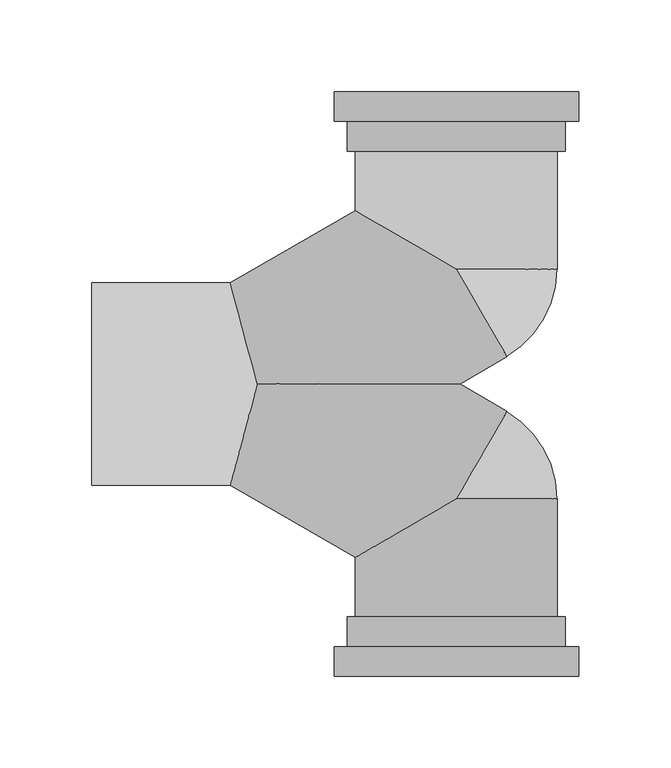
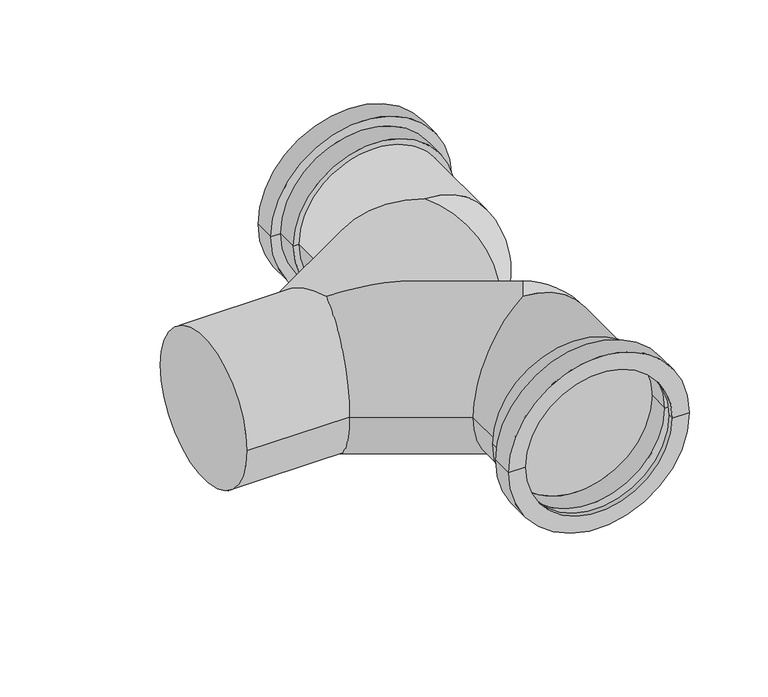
"""IFC4 building model written with IfcOpenShell, lengths in millimetres: pipe fitting geometry, Wavin_PipeFitting_PeBranchYWc : Var. PE DN."""

from ifc_helpers import new_model, si_unit, point, frame, origin, place, context, project, spatial, polyline, circle_curve, ellipse_curve, trimmed, source, transform, mapped, element, save
from ifc_brep_helpers import plane_surface, cylinder_surface, revolved_surface, advanced_brep


def pipe_fitting_9b13b171(model_context):
    return source(origin(), model_context, "Body", "AdvancedBrep", [
        advanced_brep(
        [(135.7531755, 14.8686028, 0.0), (108.2531755, 62.5, 55.0), (53.2531755, 94.2542648, 0.0), (-14.7372056, 55.0, 0.0), (0.0, 0.0, 55.0), (110.0, 0.0, 0.0), (108.2531755, 62.5, -55.0), (0.0, 0.0, -55.0), (163.2531755, 62.5, 0.0), (163.7531755, 130.5, 0.0), (52.7531755, 130.5, 0.0), (163.2531755, 126.7, 0.0), (53.2531755, 126.7, 0.0), (-90.0, -55.0, 0.0), (-90.0, 55.0, 0.0), (-14.7372056, -55.0, 0.0), (135.7531755, -14.8686028, 0.0), (53.2531755, -94.2542648, 0.0), (108.2531755, -62.5, 55.0), (108.2531755, -62.5, -55.0), (52.7531755, -130.5, 0.0), (163.7531755, -130.5, 0.0), (53.2531755, -126.7, 0.0), (163.2531755, -126.7, 0.0), (163.2531755, -62.5, 0.0), (167.5531755, -126.7, 0.0), (48.9531755, -126.7, 0.0), (167.5531755, -142.8833679, 0.0), (48.9531755, -142.8833679, 0.0), (174.7531755, -142.8833679, 0.0), (41.7531755, -142.8833679, 0.0), (174.7531755, -158.8833679, 0.0), (41.7531755, -158.8833679, 0.0), (162.1531755, -158.8833679, 0.0), (54.3531755, -158.8833679, 0.0), (162.1531755, -155.0833679, 0.0), (54.3531755, -155.0833679, 0.0), (170.9531755, -155.0833679, 0.0), (45.5531755, -155.0833679, 0.0), (170.9531755, -146.6833679, 0.0), (45.5531755, -146.6833679, 0.0), (163.7531755, -146.6833679, 0.0), (52.7531755, -146.6833679, 0.0), (48.9531755, 126.7, 0.0), (167.5531755, 126.7, 0.0), (48.9531755, 142.8833679, 0.0), (167.5531755, 142.8833679, 0.0), (41.7531755, 142.8833679, 0.0), (174.7531755, 142.8833679, 0.0), (41.7531755, 158.8833679, 0.0), (174.7531755, 158.8833679, 0.0), (54.3531755, 158.8833679, 0.0), (162.1531755, 158.8833679, 0.0), (54.3531755, 155.0833679, 0.0), (162.1531755, 155.0833679, 0.0), (45.5531755, 155.0833679, 0.0), (170.9531755, 155.0833679, 0.0), (45.5531755, 146.6833679, 0.0), (170.9531755, 146.6833679, 0.0), (52.7531755, 146.6833679, 0.0), (163.7531755, 146.6833679, 0.0)],
        [
            (0, 1, circle_curve(frame((108.2531755, 62.5, 0.0), z_axis=(-0.866025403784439, -0.49999999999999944, 0.0), x_axis=(-0.49999999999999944, 0.866025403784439, 0.0)), 55.0)),
            (1, 2, ellipse_curve(frame((108.2531755, 62.5, 0.0), z_axis=(-0.5000000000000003, -0.8660254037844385, 0.0), x_axis=(-0.8660254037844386, 0.5000000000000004, 0.0)), 63.5085296, 55.0)),
            (2, 3),
            (3, 4, ellipse_curve(frame((0.0, 0.0, 0.0), z_axis=(0.9659258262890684, 0.25881904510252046, 0.0), x_axis=(0.25881904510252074, -0.9659258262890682, 0.0)), 56.9401899, 55.0)),
            (4, 5, ellipse_curve(frame((0.0, 0.0, 0.0), z_axis=(0.0, 1.0, 0.0), x_axis=(-1.0, 0.0, 0.0)), 110.0, 55.0)),
            (5, 0),
            (6, 0, circle_curve(frame((108.2531755, 62.5, 0.0), z_axis=(-0.866025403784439, -0.49999999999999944, 0.0), x_axis=(-0.49999999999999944, 0.866025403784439, 0.0)), 55.0)),
            (5, 7, ellipse_curve(frame((0.0, 0.0, 0.0), z_axis=(0.0, 1.0, 0.0), x_axis=(-1.0, 0.0, 0.0)), 110.0, 55.0)),
            (7, 3, ellipse_curve(frame((0.0, 0.0, 0.0), z_axis=(0.9659258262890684, 0.25881904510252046, 0.0), x_axis=(0.25881904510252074, -0.9659258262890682, 0.0)), 56.9401899, 55.0)),
            (2, 6, ellipse_curve(frame((108.2531755, 62.5, 0.0), z_axis=(-0.5000000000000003, -0.8660254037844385, 0.0), x_axis=(-0.8660254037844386, 0.5000000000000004, 0.0)), 63.5085296, 55.0)),
            (6, 8, circle_curve(frame((108.2531755, 62.5, 0.0), z_axis=(0.0, -1.0, 0.0), x_axis=(1.0, 0.0, 0.0)), 55.0)),
            (8, 1, circle_curve(frame((108.2531755, 62.5, 0.0), z_axis=(0.0, -1.0, 0.0), x_axis=(1.0, 0.0, 0.0)), 55.0)),
            (9, 10, circle_curve(frame((108.2531755, 130.5, 0.0), z_axis=(0.0, 1.0, 0.0), x_axis=(1.0, 0.0, 0.0)), 55.5)),
            (10, 9, circle_curve(frame((108.2531755, 130.5, 0.0), z_axis=(0.0, 1.0, 0.0), x_axis=(1.0, 0.0, 0.0)), 55.5)),
            (8, 11),
            (11, 12, circle_curve(frame((108.2531755, 126.7, 0.0), z_axis=(0.0, -1.0, 0.0), x_axis=(-1.0, 0.0, 0.0)), 55.0)),
            (12, 2),
            (12, 11, circle_curve(frame((108.2531755, 126.7, 0.0), z_axis=(0.0, -1.0, 0.0), x_axis=(-1.0, 0.0, 0.0)), 55.0)),
            (13, 14, circle_curve(frame((-90.0, 0.0, 0.0), z_axis=(-1.0, 0.0, 0.0), x_axis=(0.0, 1.0, 0.0)), 55.0)),
            (14, 13, circle_curve(frame((-90.0, 0.0, 0.0), z_axis=(-1.0, 0.0, 0.0), x_axis=(0.0, 1.0, 0.0)), 55.0)),
            (14, 3),
            (7, 15, ellipse_curve(frame((0.0, 0.0, 0.0), z_axis=(-0.9659258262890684, 0.25881904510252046, 0.0), x_axis=(0.25881904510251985, 0.9659258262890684, 0.0)), 56.9401899, 55.0)),
            (15, 13),
            (15, 4, ellipse_curve(frame((0.0, 0.0, 0.0), z_axis=(-0.9659258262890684, 0.25881904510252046, 0.0), x_axis=(0.25881904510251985, 0.9659258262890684, 0.0)), 56.9401899, 55.0)),
            (16, 5),
            (15, 17),
            (17, 18, ellipse_curve(frame((108.2531755, -62.5, 0.0), z_axis=(-0.5000000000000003, 0.8660254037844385, 0.0), x_axis=(-0.8660254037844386, -0.5000000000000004, 0.0)), 63.5085296, 55.0)),
            (18, 16, circle_curve(frame((108.2531755, -62.5, 0.0), z_axis=(-0.866025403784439, 0.49999999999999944, 0.0), x_axis=(0.49999999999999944, 0.866025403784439, 0.0)), 55.0)),
            (16, 19, circle_curve(frame((108.2531755, -62.5, 0.0), z_axis=(-0.866025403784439, 0.49999999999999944, 0.0), x_axis=(0.49999999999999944, 0.866025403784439, 0.0)), 55.0)),
            (19, 17, ellipse_curve(frame((108.2531755, -62.5, 0.0), z_axis=(-0.5000000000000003, 0.8660254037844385, 0.0), x_axis=(-0.8660254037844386, -0.5000000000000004, 0.0)), 63.5085296, 55.0)),
            (20, 21, circle_curve(frame((108.2531755, -130.5, 0.0), z_axis=(0.0, -1.0, 0.0), x_axis=(1.0, 0.0, 0.0)), 55.5)),
            (21, 20, circle_curve(frame((108.2531755, -130.5, 0.0), z_axis=(0.0, -1.0, 0.0), x_axis=(1.0, 0.0, 0.0)), 55.5)),
            (17, 22),
            (22, 23, circle_curve(frame((108.2531755, -126.7, 0.0), z_axis=(0.0, 1.0, 0.0), x_axis=(1.0, 0.0, 0.0)), 55.0)),
            (23, 24),
            (24, 18, circle_curve(frame((108.2531755, -62.5, 0.0), z_axis=(0.0, -1.0, 0.0), x_axis=(1.0, 0.0, 0.0)), 55.0)),
            (19, 24, circle_curve(frame((108.2531755, -62.5, 0.0), z_axis=(0.0, -1.0, 0.0), x_axis=(1.0, 0.0, 0.0)), 55.0)),
            (23, 22, circle_curve(frame((108.2531755, -126.7, 0.0), z_axis=(0.0, 1.0, 0.0), x_axis=(1.0, 0.0, 0.0)), 55.0)),
            (25, 26, circle_curve(frame((108.2531755, -126.7, 0.0), z_axis=(0.0, 1.0, 0.0), x_axis=(1.0, 0.0, 0.0)), 59.3)),
            (26, 22),
            (23, 25),
            (26, 25, circle_curve(frame((108.2531755, -126.7, 0.0), z_axis=(0.0, 1.0, 0.0), x_axis=(1.0, 0.0, 0.0)), 59.3)),
            (25, 27),
            (27, 28, circle_curve(frame((108.2531755, -142.8833679, 0.0), z_axis=(0.0, 1.0, 0.0), x_axis=(1.0, 0.0, 0.0)), 59.3)),
            (28, 26),
            (28, 27, circle_curve(frame((108.2531755, -142.8833679, 0.0), z_axis=(0.0, 1.0, 0.0), x_axis=(1.0, 0.0, 0.0)), 59.3)),
            (27, 29),
            (29, 30, circle_curve(frame((108.2531755, -142.8833679, 0.0), z_axis=(0.0, 1.0, 0.0), x_axis=(1.0, 0.0, 0.0)), 66.5)),
            (30, 28),
            (30, 29, circle_curve(frame((108.2531755, -142.8833679, 0.0), z_axis=(0.0, 1.0, 0.0), x_axis=(1.0, 0.0, 0.0)), 66.5)),
            (29, 31),
            (31, 32, circle_curve(frame((108.2531755, -158.8833679, 0.0), z_axis=(0.0, 1.0, 0.0), x_axis=(1.0, 0.0, 0.0)), 66.5)),
            (32, 30),
            (32, 31, circle_curve(frame((108.2531755, -158.8833679, 0.0), z_axis=(0.0, 1.0, 0.0), x_axis=(1.0, 0.0, 0.0)), 66.5)),
            (31, 33),
            (33, 34, circle_curve(frame((108.2531755, -158.8833679, 0.0), z_axis=(0.0, 1.0, 0.0), x_axis=(1.0, 0.0, 0.0)), 53.9)),
            (34, 32),
            (34, 33, circle_curve(frame((108.2531755, -158.8833679, 0.0), z_axis=(0.0, 1.0, 0.0), x_axis=(1.0, 0.0, 0.0)), 53.9)),
            (33, 35),
            (35, 36, circle_curve(frame((108.2531755, -155.0833679, 0.0), z_axis=(0.0, 1.0, 0.0), x_axis=(1.0, 0.0, 0.0)), 53.9)),
            (36, 34),
            (36, 35, circle_curve(frame((108.2531755, -155.0833679, 0.0), z_axis=(0.0, 1.0, 0.0), x_axis=(1.0, 0.0, 0.0)), 53.9)),
            (35, 37),
            (37, 38, circle_curve(frame((108.2531755, -155.0833679, 0.0), z_axis=(0.0, 1.0, 0.0), x_axis=(1.0, 0.0, 0.0)), 62.7)),
            (38, 36),
            (38, 37, circle_curve(frame((108.2531755, -155.0833679, 0.0), z_axis=(0.0, 1.0, 0.0), x_axis=(1.0, 0.0, 0.0)), 62.7)),
            (37, 39),
            (39, 40, circle_curve(frame((108.2531755, -146.6833679, 0.0), z_axis=(0.0, 1.0, 0.0), x_axis=(1.0, 0.0, 0.0)), 62.7)),
            (40, 38),
            (40, 39, circle_curve(frame((108.2531755, -146.6833679, 0.0), z_axis=(0.0, 1.0, 0.0), x_axis=(1.0, 0.0, 0.0)), 62.7)),
            (39, 41),
            (41, 42, circle_curve(frame((108.2531755, -146.6833679, 0.0), z_axis=(0.0, 1.0, 0.0), x_axis=(1.0, 0.0, 0.0)), 55.5)),
            (42, 40),
            (42, 41, circle_curve(frame((108.2531755, -146.6833679, 0.0), z_axis=(0.0, 1.0, 0.0), x_axis=(1.0, 0.0, 0.0)), 55.5)),
            (20, 42),
            (41, 21),
            (43, 44, circle_curve(frame((108.2531755, 126.7, 0.0), z_axis=(0.0, -1.0, 0.0), x_axis=(1.0, 0.0, 0.0)), 59.3)),
            (44, 11),
            (12, 43),
            (44, 43, circle_curve(frame((108.2531755, 126.7, 0.0), z_axis=(0.0, -1.0, 0.0), x_axis=(1.0, 0.0, 0.0)), 59.3)),
            (43, 45),
            (45, 46, circle_curve(frame((108.2531755, 142.8833679, 0.0), z_axis=(0.0, -1.0, 0.0), x_axis=(1.0, 0.0, 0.0)), 59.3)),
            (46, 44),
            (46, 45, circle_curve(frame((108.2531755, 142.8833679, 0.0), z_axis=(0.0, -1.0, 0.0), x_axis=(1.0, 0.0, 0.0)), 59.3)),
            (45, 47),
            (47, 48, circle_curve(frame((108.2531755, 142.8833679, 0.0), z_axis=(0.0, -1.0, 0.0), x_axis=(1.0, 0.0, 0.0)), 66.5)),
            (48, 46),
            (48, 47, circle_curve(frame((108.2531755, 142.8833679, 0.0), z_axis=(0.0, -1.0, 0.0), x_axis=(1.0, 0.0, 0.0)), 66.5)),
            (47, 49),
            (49, 50, circle_curve(frame((108.2531755, 158.8833679, 0.0), z_axis=(0.0, -1.0, 0.0), x_axis=(1.0, 0.0, 0.0)), 66.5)),
            (50, 48),
            (50, 49, circle_curve(frame((108.2531755, 158.8833679, 0.0), z_axis=(0.0, -1.0, 0.0), x_axis=(1.0, 0.0, 0.0)), 66.5)),
            (49, 51),
            (51, 52, circle_curve(frame((108.2531755, 158.8833679, 0.0), z_axis=(0.0, -1.0, 0.0), x_axis=(1.0, 0.0, 0.0)), 53.9)),
            (52, 50),
            (52, 51, circle_curve(frame((108.2531755, 158.8833679, 0.0), z_axis=(0.0, -1.0, 0.0), x_axis=(1.0, 0.0, 0.0)), 53.9)),
            (51, 53),
            (53, 54, circle_curve(frame((108.2531755, 155.0833679, 0.0), z_axis=(0.0, -1.0, 0.0), x_axis=(1.0, 0.0, 0.0)), 53.9)),
            (54, 52),
            (54, 53, circle_curve(frame((108.2531755, 155.0833679, 0.0), z_axis=(0.0, -1.0, 0.0), x_axis=(1.0, 0.0, 0.0)), 53.9)),
            (53, 55),
            (55, 56, circle_curve(frame((108.2531755, 155.0833679, 0.0), z_axis=(0.0, -1.0, 0.0), x_axis=(1.0, 0.0, 0.0)), 62.7)),
            (56, 54),
            (56, 55, circle_curve(frame((108.2531755, 155.0833679, 0.0), z_axis=(0.0, -1.0, 0.0), x_axis=(1.0, 0.0, 0.0)), 62.7)),
            (55, 57),
            (57, 58, circle_curve(frame((108.2531755, 146.6833679, 0.0), z_axis=(0.0, -1.0, 0.0), x_axis=(1.0, 0.0, 0.0)), 62.7)),
            (58, 56),
            (58, 57, circle_curve(frame((108.2531755, 146.6833679, 0.0), z_axis=(0.0, -1.0, 0.0), x_axis=(1.0, 0.0, 0.0)), 62.7)),
            (57, 59),
            (59, 60, circle_curve(frame((108.2531755, 146.6833679, 0.0), z_axis=(0.0, -1.0, 0.0), x_axis=(1.0, 0.0, 0.0)), 55.5)),
            (60, 58),
            (60, 59, circle_curve(frame((108.2531755, 146.6833679, 0.0), z_axis=(0.0, -1.0, 0.0), x_axis=(1.0, 0.0, 0.0)), 55.5)),
            (9, 60),
            (59, 10),
        ],
        [
            cylinder_surface(frame((0.0, 0.0, 0.0), z_axis=(-0.866025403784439, -0.49999999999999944, 0.0), x_axis=(-0.49999999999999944, 0.866025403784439, 0.0)), 55.0),
            revolved_surface(trimmed(ellipse_curve(frame((108.2531755, 62.5, 0.0), z_axis=(0.0, 1.0, 0.0), x_axis=(1.0, 0.0, 0.0)), 55.0, 55.0), [point((108.2531755, 62.5, 55.0))], [point((108.2531755, 62.5, -55.0))], True, "CARTESIAN"), (108.2531755, 62.5, 55.0), (0.0, 0.0, -1.0)),
            plane_surface(frame((108.2531755, 130.5, 0.0), z_axis=(0.0, 1.0, 0.0), x_axis=(0.0, 0.0, 1.0))),
            cylinder_surface(frame((108.2531755, 62.5, 0.0), z_axis=(0.0, -1.0, 0.0), x_axis=(-1.0, 0.0, 0.0)), 55.0),
            plane_surface(frame((-90.0, 55.0, 0.0), z_axis=(-1.0, 0.0, 0.0), x_axis=(0.0, 0.0, -1.0))),
            cylinder_surface(frame((-90.0, 0.0, 0.0), z_axis=(1.0, 0.0, 0.0), x_axis=(0.0, 1.0, 0.0)), 55.0),
            cylinder_surface(frame((0.0, 0.0, 0.0), z_axis=(-0.866025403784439, 0.49999999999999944, 0.0), x_axis=(0.49999999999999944, 0.866025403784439, 0.0)), 55.0),
            plane_surface(frame((108.2531755, -130.5, 0.0), z_axis=(0.0, -1.0, 0.0), x_axis=(0.0, 0.0, 1.0))),
            cylinder_surface(frame((108.2531755, -62.5, 0.0), z_axis=(0.0, 1.0, 0.0), x_axis=(1.0, 0.0, 0.0)), 55.0),
            revolved_surface(trimmed(ellipse_curve(frame((108.2531755, -62.5, 0.0), z_axis=(0.0, -1.0, 0.0), x_axis=(-1.0, 0.0, 0.0)), 55.0, 55.0), [point((108.2531755, -62.5, -55.0))], [point((108.2531755, -62.5, 55.0))], True, "CARTESIAN"), (108.2531755, -62.5, 55.0), (0.0, 0.0, 1.0)),
            plane_surface(frame((108.2531755, -126.7, 0.0), z_axis=(0.0, 1.0, 0.0), x_axis=(1.0, 0.0, 0.0))),
            cylinder_surface(frame((108.2531755, -76.3166321, 0.0), z_axis=(0.0, 1.0, 0.0), x_axis=(1.0, 0.0, 0.0)), 59.3),
            plane_surface(frame((108.2531755, -142.8833679, 0.0), z_axis=(0.0, 1.0, 0.0), x_axis=(1.0, 0.0, 0.0))),
            cylinder_surface(frame((108.2531755, -76.3166321, 0.0), z_axis=(0.0, 1.0, 0.0), x_axis=(1.0, 0.0, 0.0)), 66.5),
            plane_surface(frame((108.2531755, -158.8833679, 0.0), z_axis=(0.0, -1.0, 0.0), x_axis=(1.0, 0.0, 0.0))),
            revolved_surface(polyline([(162.1531755, -155.0833679, 0.0), (162.1531755, -158.8833679, 0.0)]), (108.2531755, -76.3166321, 0.0), (0.0, 1.0, 0.0)),
            plane_surface(frame((108.2531755, -155.0833679, 0.0), z_axis=(0.0, 1.0, 0.0), x_axis=(1.0, 0.0, 0.0))),
            revolved_surface(polyline([(170.9531755, -146.6833679, 0.0), (170.9531755, -155.0833679, 0.0)]), (108.2531755, -76.3166321, 0.0), (0.0, 1.0, 0.0)),
            plane_surface(frame((108.2531755, -146.6833679, 0.0), z_axis=(0.0, -1.0, 0.0), x_axis=(1.0, 0.0, 0.0))),
            revolved_surface(polyline([(163.7531755, -130.5, 0.0), (163.7531755, -146.6833679, 0.0)]), (108.2531755, -76.3166321, 0.0), (0.0, 1.0, 0.0)),
            plane_surface(frame((108.2531755, 126.7, 0.0), z_axis=(0.0, -1.0, 0.0), x_axis=(1.0, 0.0, 0.0))),
            cylinder_surface(frame((108.2531755, 76.3166321, 0.0), z_axis=(0.0, 1.0, 0.0), x_axis=(1.0, 0.0, 0.0)), 59.3),
            plane_surface(frame((108.2531755, 142.8833679, 0.0), z_axis=(0.0, -1.0, 0.0), x_axis=(1.0, 0.0, 0.0))),
            cylinder_surface(frame((108.2531755, 76.3166321, 0.0), z_axis=(0.0, 1.0, 0.0), x_axis=(1.0, 0.0, 0.0)), 66.5),
            plane_surface(frame((108.2531755, 158.8833679, 0.0), z_axis=(0.0, 1.0, 0.0), x_axis=(1.0, 0.0, 0.0))),
            revolved_surface(polyline([(162.1531755, 158.8833679, 0.0), (162.1531755, 155.0833679, 0.0)]), (108.2531755, 76.3166321, 0.0), (0.0, 1.0, 0.0)),
            plane_surface(frame((108.2531755, 155.0833679, 0.0), z_axis=(0.0, -1.0, 0.0), x_axis=(1.0, 0.0, 0.0))),
            revolved_surface(polyline([(170.9531755, 155.0833679, 0.0), (170.9531755, 146.6833679, 0.0)]), (108.2531755, 76.3166321, 0.0), (0.0, 1.0, 0.0)),
            plane_surface(frame((108.2531755, 146.6833679, 0.0), z_axis=(0.0, 1.0, 0.0), x_axis=(1.0, 0.0, 0.0))),
            revolved_surface(polyline([(163.7531755, 146.6833679, 0.0), (163.7531755, 130.5, 0.0)]), (108.2531755, 76.3166321, 0.0), (0.0, 1.0, 0.0)),
        ],
        [
            (0, [[1, 2, 3, 4, 5, 6]]),
            (0, [[7, -6, 8, 9, -3, 10]]),
            (1, [[-1, -7, 11, 12]]),
            (2, [[13, 14]]),
            (3, [[-2, -12, 15, 16, 17]]),
            (3, [[-10, -17, 18, -15, -11]]),
            (4, [[19, 20]]),
            (5, [[-20, 21, -9, 22, 23]]),
            (5, [[-19, -23, 24, -4, -21]]),
            (6, [[25, -5, -24, 26, 27, 28]]),
            (6, [[-25, 29, 30, -26, -22, -8]]),
            (7, [[31, 32]]),
            (8, [[-27, 33, 34, 35, 36]]),
            (8, [[-30, 37, -35, 38, -33]]),
            (9, [[-28, -36, -37, -29]]),
            (10, [[39, 40, -38, 41]]),
            (10, [[42, -41, -34, -40]]),
            (11, [[-39, 43, 44, 45]]),
            (11, [[-42, -45, 46, -43]]),
            (12, [[-44, 47, 48, 49]]),
            (12, [[-46, -49, 50, -47]]),
            (13, [[-48, 51, 52, 53]]),
            (13, [[-50, -53, 54, -51]]),
            (14, [[-52, 55, 56, 57]]),
            (14, [[-54, -57, 58, -55]]),
            (15, [[-56, 59, 60, 61]]),
            (15, [[-58, -61, 62, -59]]),
            (16, [[-60, 63, 64, 65]]),
            (16, [[-62, -65, 66, -63]]),
            (17, [[-64, 67, 68, 69]]),
            (17, [[-66, -69, 70, -67]]),
            (18, [[-68, 71, 72, 73]]),
            (18, [[-70, -73, 74, -71]]),
            (19, [[-31, 75, -72, 76]]),
            (19, [[-32, -76, -74, -75]]),
            (20, [[77, 78, -18, 79]]),
            (20, [[80, -79, -16, -78]]),
            (21, [[-77, 81, 82, 83]]),
            (21, [[-80, -83, 84, -81]]),
            (22, [[-82, 85, 86, 87]]),
            (22, [[-84, -87, 88, -85]]),
            (23, [[-86, 89, 90, 91]]),
            (23, [[-88, -91, 92, -89]]),
            (24, [[-90, 93, 94, 95]]),
            (24, [[-92, -95, 96, -93]]),
            (25, [[-94, 97, 98, 99]]),
            (25, [[-96, -99, 100, -97]]),
            (26, [[-98, 101, 102, 103]]),
            (26, [[-100, -103, 104, -101]]),
            (27, [[-102, 105, 106, 107]]),
            (27, [[-104, -107, 108, -105]]),
            (28, [[-106, 109, 110, 111]]),
            (28, [[-108, -111, 112, -109]]),
            (29, [[-13, 113, -110, 114]]),
            (29, [[-14, -114, -112, -113]]),
        ],
    ),
    ])


if __name__ == "__main__":
    model = new_model("IFC4")
    model_context = context("Model", 3, world=origin())
    ifc_project = project(units=[si_unit("LENGTHUNIT", "METRE", prefix="MILLI")], contexts=[model_context])
    site = spatial("IfcSite", under=ifc_project)
    building = spatial("IfcBuilding", under=site)
    placement = place(None, origin())
    pipe_fitting_shape = pipe_fitting_9b13b171(model_context)
    element("IfcPipeFitting", 1, ObjectType="Wavin_PipeFitting_PeBranchYWc : Var. PE DN", at=placement, inside=building, context=model_context, shape_type="MappedRepresentation", body=[
        mapped(pipe_fitting_shape, transform((0.0, 0.0, 0.0), x_axis=(1.0, 0.0, 0.0), y_axis=(0.0, 1.0, 0.0), z_axis=(0.0, 0.0, 1.0))),
    ])
    save(model, "model.ifc")
